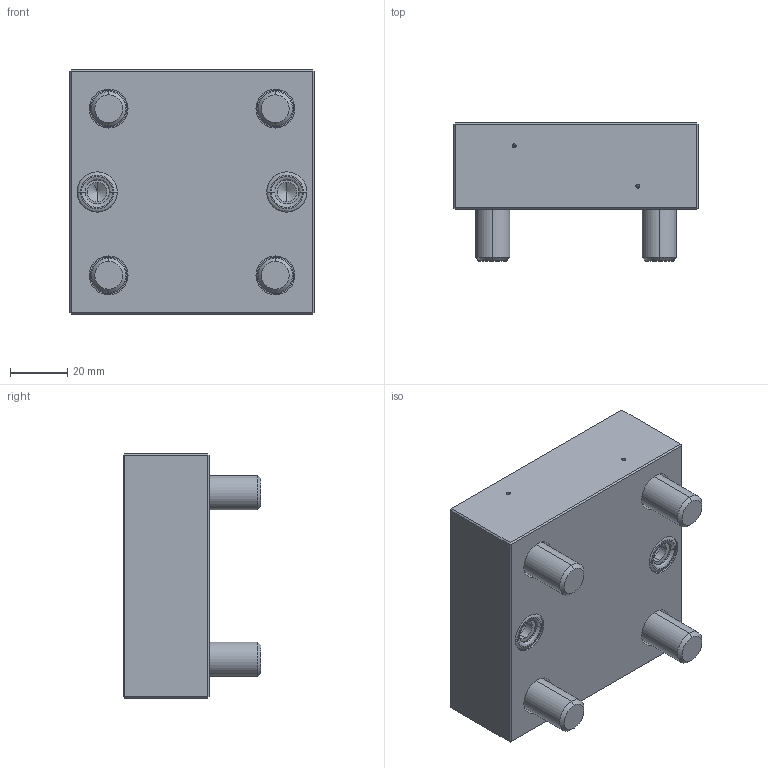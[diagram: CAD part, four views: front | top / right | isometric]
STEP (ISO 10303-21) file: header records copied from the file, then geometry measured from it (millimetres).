
FILE_DESCRIPTION (( 'STEP AP214' ), '1' );
FILE_NAME ('D25420.STEP', '2017-03-17T14:34:25', ( '' ), ( '' ), 'SwSTEP 2.0', 'SolidWorks 2016', '' );
FILE_SCHEMA (( 'AUTOMOTIVE_DESIGN' ));
Length unit declared in the file: millimetre
Products named in the file (1): D25420
Bounding box: 85 x 48 x 85 mm (x, y, z)
Volume: 215285.8 mm3; surface area: 41045.4 mm2
Topology: 7 solids, 7 shells, 204 faces, 436 edges, 248 vertices
Faces by surface type: plane 96, cylinder 52, cone 24, torus 16, bspline 16
Entity records: 7852 total; most frequent: CARTESIAN_POINT 1161, DIRECTION 966, ORIENTED_EDGE 840, EDGE_CURVE 420, AXIS2_PLACEMENT_3D 373, VERTEX_POINT 248, EDGE_LOOP 234, VECTOR 220
